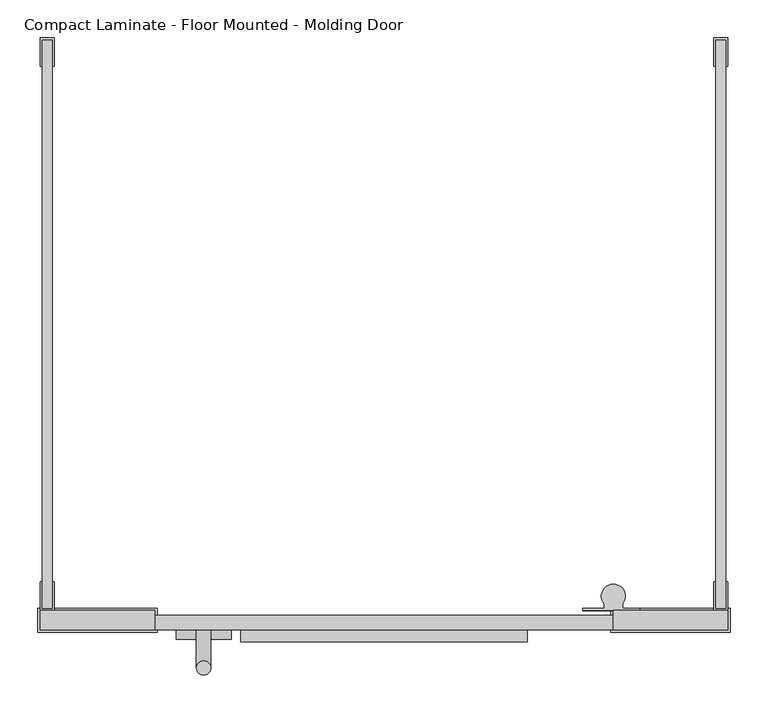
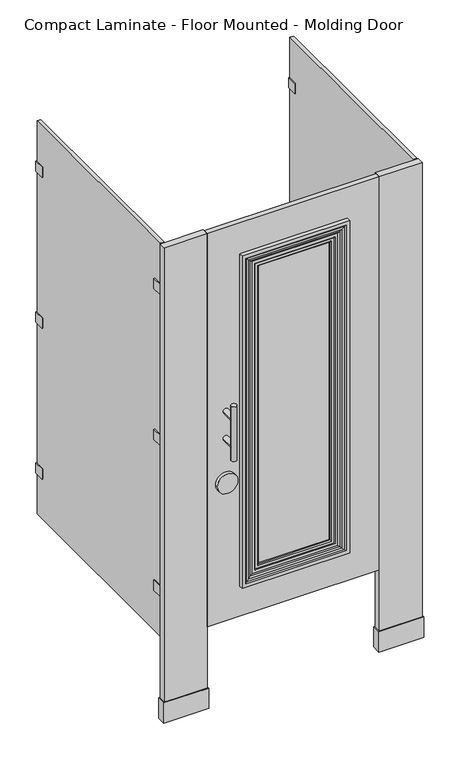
"""IFC4 building model written with IfcOpenShell, lengths in millimetres: proxy geometry, Toilet-Partition_Ironwood-Mfg_Compact-Laminate : Compact Laminate - Floor Mounted - Molding Door."""

import ifcopenshell
import ifcopenshell.guid

model = None  # the IFC model being written
_history = None  # IfcOwnerHistory: only IFC2X3 demands one
_inside = {}  # id of a spatial element -> (the spatial element, [elements in it])
_under = {}  # id of a project, library or spatial element -> (it, [spatial elements below it])
_declared = {}  # id of a project -> (the project, [libraries it declares])
_typed = {}  # id of a type object -> (the type object, [elements of that type])
_made_of = {}  # id of a material, layer set ... -> (it, [elements and type objects made of it])


def new_model(schema):
    """Start an empty IFC model of exactly this schema.

    Asked for "IFC4X3", IfcOpenShell would pick the latest addendum, in which some entities
    have other attributes; the version numbers below select the first issue.
    IFC2X3 requires an IfcOwnerHistory on every rooted entity: one is made here for all.
    """
    global model, _history
    if schema == "IFC4X3":
        model = ifcopenshell.file(schema_version=(4, 3, 0, 0))
    else:
        model = ifcopenshell.file(schema=schema)
    _inside.clear()
    _under.clear()
    _declared.clear()
    _typed.clear()
    _made_of.clear()
    _history = None
    if model.schema == "IFC2X3":
        org = make("IfcOrganization", Name="unknown")
        user = make(
            "IfcPersonAndOrganization",
            ThePerson=make("IfcPerson", FamilyName="unknown"),
            TheOrganization=org,
        )
        app = make(
            "IfcApplication",
            ApplicationDeveloper=org,
            Version="unknown",
            ApplicationFullName="unknown",
            ApplicationIdentifier="unknown",
        )
        _history = make(
            "IfcOwnerHistory",
            OwningUser=user,
            OwningApplication=app,
            ChangeAction="ADDED",
            CreationDate=0,
        )
    return model


def make(cls, **values):
    """One entity of the class cls with the attributes given. An attribute that is None is left unset."""
    return model.create_entity(
        cls, **{name: value for name, value in values.items() if value is not None}
    )


def rooted(cls, **values):
    """An entity with a GlobalId (a new one), such as an element, a storey or a relation."""
    return make(cls, GlobalId=ifcopenshell.guid.new(), OwnerHistory=_history, **values)


def si_unit(unit_type, name, prefix=None):
    """IfcSIUnit, for example si_unit("LENGTHUNIT", "METRE", prefix="MILLI")."""
    return make("IfcSIUnit", UnitType=unit_type, Prefix=prefix, Name=name)


def assignment(units):
    """IfcUnitAssignment: the units of a project."""
    return None if units is None else make("IfcUnitAssignment", Units=units)


def point(xyz):
    """IfcCartesianPoint."""
    return None if xyz is None else make("IfcCartesianPoint", Coordinates=xyz)


def direction(xyz):
    """IfcDirection."""
    return None if xyz is None else make("IfcDirection", DirectionRatios=xyz)


def frame(location, z_axis=None, x_axis=None):
    """IfcAxis2Placement3D, a coordinate frame: its origin and axes. An axis left out is left unset."""
    return make(
        "IfcAxis2Placement3D",
        Location=point(location),
        Axis=direction(z_axis),
        RefDirection=direction(x_axis),
    )


def frame_2d(location, x_axis=None):
    """IfcAxis2Placement2D, a coordinate frame in the plane: its origin and x axis."""
    return make(
        "IfcAxis2Placement2D", Location=point(location), RefDirection=direction(x_axis)
    )


def origin():
    """The frame at (0, 0, 0) with its axes left unset."""
    return frame((0.0, 0.0, 0.0))


def origin_with_axes():
    """The frame at (0, 0, 0) with the z axis (0, 0, 1) and the x axis (1, 0, 0) written out."""
    return frame((0.0, 0.0, 0.0), z_axis=(0.0, 0.0, 1.0), x_axis=(1.0, 0.0, 0.0))


def place(relative_to, where):
    """IfcLocalPlacement: puts the frame where relative to a parent placement (None: the world)."""
    return make(
        "IfcLocalPlacement", PlacementRelTo=relative_to, RelativePlacement=where
    )


def context(
    kind, dimensions, precision=None, world=None, true_north=None, identifier=None
):
    """IfcGeometricRepresentationContext, for example the 3D "Model" context."""
    return make(
        "IfcGeometricRepresentationContext",
        ContextIdentifier=identifier,
        ContextType=kind,
        CoordinateSpaceDimension=dimensions,
        Precision=precision,
        WorldCoordinateSystem=world,
        TrueNorth=true_north,
    )


def project(units=None, contexts=None):
    """IfcProject with its units and contexts."""
    return rooted(
        "IfcProject",
        Name="project",
        RepresentationContexts=contexts,
        UnitsInContext=assignment(units),
    )


def spatial(cls, under=None, at=None, **own):
    """A site, building, storey or space (cls), placed at a placement, below another one or the project."""
    s = rooted(cls, ObjectPlacement=at, **own)
    if under is not None:
        _under.setdefault(under.id(), (under, []))[1].append(s)
    return s


def polyline(points):
    """IfcPolyline through the points."""
    return make("IfcPolyline", Points=[point(p) for p in points])


def circle_curve(where, radius):
    """IfcCircle in the frame where."""
    return make("IfcCircle", Position=where, Radius=radius)


def ellipse_curve(where, semi_axis1, semi_axis2):
    """IfcEllipse in the frame where."""
    return make(
        "IfcEllipse", Position=where, SemiAxis1=semi_axis1, SemiAxis2=semi_axis2
    )


def trimmed(basis, trim1, trim2, sense, master):
    """IfcTrimmedCurve: the piece of a basis curve between two trims."""
    return make(
        "IfcTrimmedCurve",
        BasisCurve=basis,
        Trim1=trim1,
        Trim2=trim2,
        SenseAgreement=sense,
        MasterRepresentation=master,
    )


def segment(curve, same_sense, transition):
    """IfcCompositeCurveSegment."""
    return make(
        "IfcCompositeCurveSegment",
        Transition=transition,
        SameSense=same_sense,
        ParentCurve=curve,
    )


def composite_curve(segments, self_intersect=None):
    """IfcCompositeCurve: segments joined end to end."""
    return make("IfcCompositeCurve", Segments=segments, SelfIntersect=self_intersect)


def outline(outer, holes=None, kind="AREA"):
    """IfcArbitraryClosedProfileDef: a profile drawn as a closed curve; with holes, ...WithVoids."""
    if holes is None:
        return make("IfcArbitraryClosedProfileDef", ProfileType=kind, OuterCurve=outer)
    return make(
        "IfcArbitraryProfileDefWithVoids",
        ProfileType=kind,
        OuterCurve=outer,
        InnerCurves=holes,
    )


def extrude(swept, where, along, depth):
    """IfcExtrudedAreaSolid: the profile swept, set in the frame where, extruded along a direction by depth."""
    return make(
        "IfcExtrudedAreaSolid",
        SweptArea=swept,
        Position=where,
        ExtrudedDirection=direction(along),
        Depth=depth,
    )


def shape(context_of_items, identifier, shape_type, items):
    """IfcShapeRepresentation: the items that make up one representation, for example the "Body"."""
    return make(
        "IfcShapeRepresentation",
        ContextOfItems=context_of_items,
        RepresentationIdentifier=identifier,
        RepresentationType=shape_type,
        Items=items,
    )


def source(mapping_origin, context_of_items, identifier, shape_type, items):
    """IfcRepresentationMap: a shape defined once, which mapped items show again and again."""
    return make(
        "IfcRepresentationMap",
        MappingOrigin=mapping_origin,
        MappedRepresentation=shape(context_of_items, identifier, shape_type, items),
    )


def transform(
    local_origin,
    x_axis=None,
    y_axis=None,
    z_axis=None,
    scale=None,
    scale2=None,
    scale3=None,
    uniform=True,
):
    """IfcCartesianTransformationOperator3D, or its non-uniform kind. x_axis, y_axis, z_axis: its Axis1, 2, 3."""
    if uniform:
        return make(
            "IfcCartesianTransformationOperator3D",
            Axis1=direction(x_axis),
            Axis2=direction(y_axis),
            LocalOrigin=point(local_origin),
            Scale=scale,
            Axis3=direction(z_axis),
        )
    return make(
        "IfcCartesianTransformationOperator3DnonUniform",
        Axis1=direction(x_axis),
        Axis2=direction(y_axis),
        LocalOrigin=point(local_origin),
        Scale=scale,
        Axis3=direction(z_axis),
        Scale2=scale2,
        Scale3=scale3,
    )


def mapped(mapping_source, mapping_target):
    """IfcMappedItem: shows the shape of a source again, moved by a transform."""
    return make(
        "IfcMappedItem", MappingSource=mapping_source, MappingTarget=mapping_target
    )


def made_of(thing, what):
    """Note that an element or type object is made of a material, layer set ...; save() writes the relation."""
    if what is not None:
        _made_of.setdefault(what.id(), (what, []))[1].append(thing)
    return thing


def element(
    cls,
    number,
    at=None,
    inside=None,
    cuts=None,
    type_object=None,
    material=None,
    context=None,
    identifier="Body",
    shape_type=None,
    held_by="IfcProductDefinitionShape",
    body=None,
    shapes=None,
    **own,
):
    """One element of the class cls, such as IfcWall. Its Tag is "e" and its number.

    at: its placement. inside: the storey or other place that contains it. cuts: it is an
    opening in that element (IfcRelVoidsElement). A single representation is given by context,
    identifier, shape_type and body (its items); several are given by shapes. held_by: the class
    of the entity that holds the representations. save() writes the other relations.
    """
    e = rooted(cls, Tag="e%d" % number, ObjectPlacement=at, **own)
    if body is not None:
        shapes = [shape(context, identifier, shape_type, body)]
    if shapes is not None:
        e.Representation = make(held_by, Representations=shapes)
    if inside is not None:
        _inside.setdefault(inside.id(), (inside, []))[1].append(e)
    if cuts is not None:
        rooted(
            "IfcRelVoidsElement", RelatingBuildingElement=cuts, RelatedOpeningElement=e
        )
    if type_object is not None:
        _typed.setdefault(type_object.id(), (type_object, []))[1].append(e)
    return made_of(e, material)


def aggregate(whole, parts):
    """IfcRelAggregates: a whole, such as a stair, and the parts it consists of."""
    return rooted("IfcRelAggregates", RelatingObject=whole, RelatedObjects=parts)


def save(model, path):
    """Write the relations noted so far, then the file.

    IfcRelAggregates (storeys below a building ...), IfcRelContainedInSpatialStructure (elements
    in a storey), IfcRelDefinesByType, IfcRelAssociatesMaterial and IfcRelDeclares: one each for
    every whole, place, type object, material and project.
    """
    for whole, parts in _under.values():
        aggregate(whole, parts)
    for where, things in _inside.values():
        rooted(
            "IfcRelContainedInSpatialStructure",
            RelatedElements=things,
            RelatingStructure=where,
        )
    for kind, things in _typed.values():
        rooted("IfcRelDefinesByType", RelatedObjects=things, RelatingType=kind)
    for what, things in _made_of.values():
        rooted("IfcRelAssociatesMaterial", RelatedObjects=things, RelatingMaterial=what)
    for by, libraries in _declared.values():
        rooted("IfcRelDeclares", RelatingContext=by, RelatedDefinitions=libraries)
    model.write(path)


def plane_surface(at):
    """IfcPlane: the flat surface through the origin of the frame at, square to its z axis."""
    return make("IfcPlane", Position=at)


def cylinder_surface(at, radius):
    """IfcCylindricalSurface: all points at the distance radius from the z axis of the frame at."""
    return make("IfcCylindricalSurface", Position=at, Radius=radius)


def revolved_surface(curve, axis_point, axis_direction):
    """IfcSurfaceOfRevolution: the curve turned about the line through axis_point along axis_direction."""
    return make(
        "IfcSurfaceOfRevolution",
        SweptCurve=make("IfcArbitraryOpenProfileDef", ProfileType="CURVE", Curve=curve),
        AxisPosition=make("IfcAxis1Placement", Location=point(axis_point), Axis=direction(axis_direction)),
    )


def advanced_brep(points, edges, surfaces, faces):
    """IfcAdvancedBrep: a solid bounded by faces that lie on surfaces and meet in shared edges.

    An edge is (start, end): straight between two places in points (the first is 0);
    or (start, end, curve); or (start, end, curve, False) where it runs against its curve.
    A face is (place in surfaces, loops), or (place, loops, False) where it looks against
    its surface's normal. A loop lists edges by number (the first is 1), with a minus sign
    where the edge is run from its end to its start. The first loop is the outer one.
    """
    corners = [point(p) for p in points]
    vertices = [make("IfcVertexPoint", VertexGeometry=c) for c in corners]
    made = []
    for start, end, *more in edges:
        made.append(
            make(
                "IfcEdgeCurve",
                EdgeStart=vertices[start],
                EdgeEnd=vertices[end],
                EdgeGeometry=more[0] if more else make("IfcPolyline", Points=[corners[start], corners[end]]),
                SameSense=more[1] if len(more) > 1 else True,
            )
        )
    hull = []
    for where, loops, *sense in faces:
        bounds = []
        for j, loop in enumerate(loops):
            ring = [make("IfcOrientedEdge", EdgeElement=made[abs(k) - 1], Orientation=k > 0) for k in loop]
            bounds.append(
                make(
                    "IfcFaceOuterBound" if j == 0 else "IfcFaceBound",
                    Bound=make("IfcEdgeLoop", EdgeList=ring),
                    Orientation=True,
                )
            )
        hull.append(make("IfcAdvancedFace", Bounds=bounds, FaceSurface=surfaces[where], SameSense=sense[0] if sense else True))
    return make("IfcAdvancedBrep", Outer=make("IfcClosedShell", CfsFaces=hull))


def compact_laminate_floor_mounted_molding_door_0e6e7056(model_context):
    return source(origin(), model_context, "Body", "SolidModel", [
        extrude(outline(polyline([(701.675, -758.825), (701.675, -790.575), (542.925, -790.575), (542.925, -758.825), (701.675, -758.825)])), origin_with_axes(), (0.0, 0.0, 1.0), 76.2),
        extrude(outline(polyline([(698.5, -762.0), (698.5, -787.4), (546.1, -787.4), (546.1, -762.0), (698.5, -762.0)])), origin_with_axes(), (0.0, 0.0, 1.0), 1778.0),
        extrude(outline(polyline([(-219.075, -758.825), (-60.325, -758.825), (-60.325, -790.575), (-219.075, -790.575), (-219.075, -758.825)])), origin_with_axes(), (0.0, 0.0, 1.0), 76.2),
        extrude(outline(polyline([(-215.9, -762.0), (-63.5, -762.0), (-63.5, -787.4), (-215.9, -787.4), (-215.9, -762.0)])), origin_with_axes(), (0.0, 0.0, 1.0), 1778.0),
        extrude(outline(polyline([(546.1, -787.4), (-63.5, -787.4), (-63.5, -768.35), (546.1, -768.35), (546.1, -787.4)])), frame((0.0, 0.0, 304.8), z_axis=(0.0, 0.0, 1.0), x_axis=(1.0, 0.0, 0.0)), (0.0, 0.0, 1.0), 1473.2),
        extrude(outline(composite_curve([segment(trimmed(circle_curve(frame_2d((827.0875, 1.5875)), 36.5125), [point((827.0875, -34.925))], [point((827.0875, 38.1))], False, "CARTESIAN"), True, "CONTINUOUS"), segment(trimmed(circle_curve(frame_2d((827.0875, 1.5875)), 36.5125), [point((827.0875, 38.1))], [point((827.0875, -34.925))], False, "CARTESIAN"), True, "CONTINUOUS")], self_intersect=False)), frame((0.0, -800.1, 0.0), z_axis=(0.0, 1.0, 0.0), x_axis=(0.0, 0.0, 1.0)), (0.0, 0.0, 1.0), 12.7),
        advanced_brep(
        [(-7.9375, -787.4, 1092.2), (11.1125, -787.4, 1092.2), (-7.9375, -787.4, 990.6), (11.1125, -787.4, 990.6), (11.1125, -838.2, 1092.2), (-7.9375, -838.2, 1092.2), (11.1125, -838.2, 990.6), (-7.9375, -838.2, 990.6), (-7.9375, -838.2, 1143.0), (11.1125, -838.2, 1143.0), (-7.9375, -838.2, 939.8), (11.1125, -838.2, 939.8)],
        [
            (0, 1, circle_curve(frame((1.5875, -787.4, 1092.2), z_axis=(0.0, 1.0, 0.0), x_axis=(1.0, 0.0, 0.0)), 9.525)),
            (1, 0, circle_curve(frame((1.5875, -787.4, 1092.2), z_axis=(0.0, 1.0, 0.0), x_axis=(1.0, 0.0, 0.0)), 9.525)),
            (2, 3, circle_curve(frame((1.5875, -787.4, 990.6), z_axis=(0.0, 1.0, 0.0), x_axis=(1.0, 0.0, 0.0)), 9.525)),
            (3, 2, circle_curve(frame((1.5875, -787.4, 990.6), z_axis=(0.0, 1.0, 0.0), x_axis=(1.0, 0.0, 0.0)), 9.525)),
            (1, 4),
            (4, 5, ellipse_curve(frame((1.5875, -838.2, 1092.2), z_axis=(0.0, 0.7071067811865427, 0.7071067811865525), x_axis=(0.0, -0.7071067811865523, 0.7071067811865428)), 13.4703842, 9.525)),
            (5, 0),
            (5, 4, ellipse_curve(frame((1.5875, -838.2, 1092.2), z_axis=(0.0, 0.7071067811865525, -0.7071067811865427), x_axis=(0.0, -0.7071067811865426, -0.7071067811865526)), 13.4703842, 9.525)),
            (3, 6),
            (6, 7, ellipse_curve(frame((1.5875, -838.2, 990.6), z_axis=(0.0, 0.7071067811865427, 0.7071067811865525), x_axis=(0.0, -0.7071067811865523, 0.7071067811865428)), 13.4703842, 9.525)),
            (7, 2),
            (7, 6, ellipse_curve(frame((1.5875, -838.2, 990.6), z_axis=(0.0, 0.7071067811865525, -0.7071067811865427), x_axis=(0.0, -0.7071067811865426, -0.7071067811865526)), 13.4703842, 9.525)),
            (8, 9, circle_curve(frame((1.5875, -838.2, 1143.0), z_axis=(0.0, 0.0, 1.0), x_axis=(1.0, 0.0, 0.0)), 9.525)),
            (9, 8, circle_curve(frame((1.5875, -838.2, 1143.0), z_axis=(0.0, 0.0, 1.0), x_axis=(1.0, 0.0, 0.0)), 9.525)),
            (10, 11, circle_curve(frame((1.5875, -838.2, 939.8), z_axis=(0.0, 0.0, -1.0), x_axis=(1.0, 0.0, 0.0)), 9.525)),
            (11, 10, circle_curve(frame((1.5875, -838.2, 939.8), z_axis=(0.0, 0.0, -1.0), x_axis=(1.0, 0.0, 0.0)), 9.525)),
            (8, 5),
            (5, 7),
            (7, 10),
            (11, 6),
            (6, 4),
            (4, 9),
        ],
        [
            plane_surface(frame((11.1125, -787.4, 1092.2), z_axis=(0.0, 1.0, 0.0), x_axis=(0.0, 0.0, -1.0))),
            cylinder_surface(frame((1.5875, -787.4, 1092.2), z_axis=(0.0, -1.0, 0.0), x_axis=(1.0, 0.0, 0.0)), 9.525),
            cylinder_surface(frame((1.5875, -787.4, 990.6), z_axis=(0.0, -1.0, 0.0), x_axis=(1.0, 0.0, 0.0)), 9.525),
            plane_surface(frame((11.1125, -838.2, 1143.0), z_axis=(0.0, 0.0, 1.0), x_axis=(0.0, 1.0, 0.0))),
            plane_surface(frame((11.1125, -838.2, 939.8), z_axis=(0.0, 0.0, -1.0), x_axis=(0.0, -1.0, 0.0))),
            cylinder_surface(frame((1.5875, -838.2, 939.8), z_axis=(0.0, 0.0, 1.0), x_axis=(1.0, 0.0, 0.0)), 9.525),
        ],
        [
            (0, [[1, 2]]),
            (0, [[3, 4]]),
            (1, [[-2, 5, 6, 7]]),
            (1, [[-1, -7, 8, -5]]),
            (2, [[-4, 9, 10, 11]]),
            (2, [[-3, -11, 12, -9]]),
            (3, [[13, 14]]),
            (4, [[15, 16]]),
            (5, [[-13, 17, 18, 19, -16, 20, 21, 22]]),
            (5, [[-14, -22, -8, -17]]),
            (5, [[-15, -19, -10, -20]]),
            (5, [[-18, -6, -21, -12]]),
        ],
    ),
        advanced_brep(
        [(414.5195881, -788.6573117, 1646.4195881), (415.7768998, -787.4, 1647.6768998), (415.7768998, -787.4, 435.1231002), (414.5195881, -788.6573117, 436.3804119), (382.8493103, -787.3167663, 1614.7493103), (384.1898558, -788.6573117, 1616.0898558), (384.1898558, -788.6573117, 466.7101442), (382.8493103, -787.3167663, 468.0506897), (368.3, -792.3903203, 1600.2), (368.3, -787.3167663, 1600.2), (368.3, -787.3167663, 482.6), (368.3, -792.3903203, 482.6), (371.8761431, -795.8339988, 1603.7761431), (371.8761431, -795.8339988, 479.0238569), (383.7857899, -797.3276278, 1615.6857899), (381.5195942, -795.8339988, 1613.4195942), (381.5195942, -795.8339988, 469.3804058), (383.7857899, -797.3276278, 467.1142101), (399.1420677, -798.1943603, 1631.0420677), (393.8806616, -797.3276278, 1625.7806616), (393.8806616, -797.3276278, 457.0193384), (399.1420677, -798.1943603, 451.7579323), (406.241729, -800.7784257, 1638.141729), (406.241729, -800.7784257, 444.658271), (415.3065117, -800.469399, 1647.2065117), (415.3065117, -800.469399, 435.5934883), (419.1, -803.275, 1651.0), (419.1, -803.275, 431.8), (431.8, -787.4, 1663.7), (431.8, -803.275, 1663.7), (431.8, -803.275, 419.1), (431.8, -787.4, 419.1), (66.8231002, -787.4, 435.1231002), (68.0804119, -788.6573117, 436.3804119), (98.4101442, -788.6573117, 466.7101442), (99.7506897, -787.3167663, 468.0506897), (114.3, -787.3167663, 482.6), (114.3, -792.3903203, 482.6), (110.7238569, -795.8339988, 479.0238569), (101.0804058, -795.8339988, 469.3804058), (98.8142101, -797.3276278, 467.1142101), (88.7193384, -797.3276278, 457.0193384), (83.4579323, -798.1943603, 451.7579323), (76.358271, -800.7784257, 444.658271), (67.2934883, -800.469399, 435.5934883), (63.5, -803.275, 431.8), (50.8, -803.275, 419.1), (50.8, -787.4, 419.1), (66.8231002, -787.4, 1647.6768998), (68.0804119, -788.6573117, 1646.4195881), (98.4101442, -788.6573117, 1616.0898558), (99.7506897, -787.3167663, 1614.7493103), (114.3, -787.3167663, 1600.2), (114.3, -792.3903203, 1600.2), (110.7238569, -795.8339988, 1603.7761431), (101.0804058, -795.8339988, 1613.4195942), (98.8142101, -797.3276278, 1615.6857899), (88.7193384, -797.3276278, 1625.7806616), (83.4579323, -798.1943603, 1631.0420677), (76.358271, -800.7784257, 1638.141729), (67.2934883, -800.469399, 1647.2065117), (63.5, -803.275, 1651.0), (50.8, -803.275, 1663.7), (50.8, -787.4, 1663.7)],
        [
            (0, 1),
            (1, 2),
            (2, 3),
            (3, 0),
            (4, 5),
            (5, 6),
            (6, 7),
            (7, 4),
            (8, 9),
            (9, 10),
            (10, 11),
            (11, 8),
            (12, 8, ellipse_curve(frame((371.8761431, -792.2553079, 1603.7761431), z_axis=(0.7071067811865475, 0.0, -0.7071067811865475), x_axis=(0.7071067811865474, 0.0, 0.7071067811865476)), 5.0610331, 3.5786908)),
            (11, 13, ellipse_curve(frame((371.8761431, -792.2553079, 479.0238569), z_axis=(0.7071067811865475, 0.0, 0.7071067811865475), x_axis=(-0.7071067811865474, 0.0, 0.7071067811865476)), 5.0610331, 3.5786908)),
            (13, 12),
            (14, 15, ellipse_curve(frame((383.7857899, -794.8616303, 1615.6857899), z_axis=(0.7071067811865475, 0.0, -0.7071067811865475), x_axis=(0.7071067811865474, 0.0, 0.7071067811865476)), 3.487447, 2.4659974)),
            (15, 16),
            (16, 17, ellipse_curve(frame((383.7857899, -794.8616303, 467.1142101), z_axis=(0.7071067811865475, 0.0, 0.7071067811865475), x_axis=(-0.7071067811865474, 0.0, 0.7071067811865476)), 3.487447, 2.4659974)),
            (17, 14),
            (18, 19, ellipse_curve(frame((394.2058089, -811.7566197, 1626.1058089), z_axis=(-0.7071067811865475, 0.0, 0.7071067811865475), x_axis=(-0.7071067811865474, 0.0, -0.7071067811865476)), 20.4108564, 14.432655)),
            (19, 20),
            (20, 21, ellipse_curve(frame((394.2058089, -811.7566197, 456.6941911), z_axis=(-0.7071067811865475, 0.0, -0.7071067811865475), x_axis=(0.7071067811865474, 0.0, -0.7071067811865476)), 20.4108564, 14.432655)),
            (21, 18),
            (22, 18),
            (21, 23),
            (23, 22),
            (24, 22, ellipse_curve(frame((410.3907719, -789.379024, 1642.2907719), z_axis=(0.7071067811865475, 0.0, -0.7071067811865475), x_axis=(0.7071067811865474, 0.0, 0.7071067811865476)), 17.1558104, 12.1309899)),
            (23, 25, ellipse_curve(frame((410.3907719, -789.379024, 440.5092281), z_axis=(0.7071067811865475, 0.0, 0.7071067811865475), x_axis=(-0.7071067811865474, 0.0, 0.7071067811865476)), 17.1558104, 12.1309899)),
            (25, 24),
            (26, 24, ellipse_curve(frame((419.1, -799.307588, 1651.0), z_axis=(0.7071067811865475, 0.0, -0.7071067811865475), x_axis=(0.7071067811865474, 0.0, 0.7071067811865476)), 5.6107679, 3.967412)),
            (25, 27, ellipse_curve(frame((419.1, -799.307588, 431.8), z_axis=(0.7071067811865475, 0.0, 0.7071067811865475), x_axis=(-0.7071067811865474, 0.0, 0.7071067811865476)), 5.6107679, 3.967412)),
            (27, 26),
            (28, 29),
            (29, 30),
            (30, 31),
            (31, 28),
            (2, 32),
            (32, 33),
            (33, 3),
            (6, 34),
            (34, 35),
            (35, 7),
            (10, 36),
            (36, 37),
            (37, 11),
            (37, 38, ellipse_curve(frame((110.7238569, -792.2553079, 479.0238569), z_axis=(0.7071067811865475, 0.0, -0.7071067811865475), x_axis=(0.7071067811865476, 0.0, 0.7071067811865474)), 5.0610331, 3.5786908)),
            (38, 13),
            (16, 39),
            (39, 40, ellipse_curve(frame((98.8142101, -794.8616303, 467.1142101), z_axis=(0.7071067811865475, 0.0, -0.7071067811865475), x_axis=(0.7071067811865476, 0.0, 0.7071067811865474)), 3.487447, 2.4659974)),
            (40, 17),
            (20, 41),
            (41, 42, ellipse_curve(frame((88.3941911, -811.7566197, 456.6941911), z_axis=(-0.7071067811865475, 0.0, 0.7071067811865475), x_axis=(-0.7071067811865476, 0.0, -0.7071067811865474)), 20.4108564, 14.432655)),
            (42, 21),
            (42, 43),
            (43, 23),
            (43, 44, ellipse_curve(frame((72.2092281, -789.379024, 440.5092281), z_axis=(0.7071067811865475, 0.0, -0.7071067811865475), x_axis=(0.7071067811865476, 0.0, 0.7071067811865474)), 17.1558104, 12.1309899)),
            (44, 25),
            (44, 45, ellipse_curve(frame((63.5, -799.307588, 431.8), z_axis=(0.7071067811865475, 0.0, -0.7071067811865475), x_axis=(0.7071067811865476, 0.0, 0.7071067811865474)), 5.6107679, 3.967412)),
            (45, 27),
            (30, 46),
            (46, 47),
            (47, 31),
            (32, 48),
            (48, 49),
            (49, 33),
            (34, 50),
            (50, 51),
            (51, 35),
            (36, 52),
            (52, 53),
            (53, 37),
            (53, 54, ellipse_curve(frame((110.7238569, -792.2553079, 1603.7761431), z_axis=(-0.7071067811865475, 0.0, -0.7071067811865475), x_axis=(0.7071067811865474, 0.0, -0.7071067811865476)), 5.0610331, 3.5786908)),
            (54, 38),
            (39, 55),
            (55, 56, ellipse_curve(frame((98.8142101, -794.8616303, 1615.6857899), z_axis=(-0.7071067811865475, 0.0, -0.7071067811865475), x_axis=(0.7071067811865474, 0.0, -0.7071067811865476)), 3.487447, 2.4659974)),
            (56, 40),
            (41, 57),
            (57, 58, ellipse_curve(frame((88.3941911, -811.7566197, 1626.1058089), z_axis=(0.7071067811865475, 0.0, 0.7071067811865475), x_axis=(-0.7071067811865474, 0.0, 0.7071067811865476)), 20.4108564, 14.432655)),
            (58, 42),
            (58, 59),
            (59, 43),
            (59, 60, ellipse_curve(frame((72.2092281, -789.379024, 1642.2907719), z_axis=(-0.7071067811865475, 0.0, -0.7071067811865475), x_axis=(0.7071067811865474, 0.0, -0.7071067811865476)), 17.1558104, 12.1309899)),
            (60, 44),
            (60, 61, ellipse_curve(frame((63.5, -799.307588, 1651.0), z_axis=(-0.7071067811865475, 0.0, -0.7071067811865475), x_axis=(0.7071067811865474, 0.0, -0.7071067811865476)), 5.6107679, 3.967412)),
            (61, 45),
            (46, 62),
            (62, 63),
            (63, 47),
            (63, 28),
            (1, 48),
            (0, 49),
            (5, 50),
            (4, 51),
            (9, 52),
            (8, 53),
            (12, 54),
            (15, 55),
            (14, 56),
            (19, 57),
            (18, 58),
            (22, 59),
            (24, 60),
            (26, 61),
            (29, 62),
        ],
        [
            plane_surface(frame((415.7768998, -787.4, 1647.6768998), z_axis=(-0.7071067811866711, 0.7071067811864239, 0.0), x_axis=(0.0, 0.0, -1.0))),
            plane_surface(frame((384.1898558, -788.6573117, 1616.0898558), z_axis=(0.7071067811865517, 0.7071067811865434, 0.0), x_axis=(0.0, 0.0, -1.0))),
            plane_surface(frame((368.3, -787.3167663, 1600.2), z_axis=(-1.0, 0.0, 0.0), x_axis=(0.0, 0.0, -1.0))),
            cylinder_surface(frame((371.8761431, -792.2553079, 1663.7), z_axis=(0.0, 0.0, 1.0), x_axis=(1.0, 0.0, 0.0)), 3.5786908),
            cylinder_surface(frame((383.7857899, -794.8616303, 1663.7), z_axis=(0.0, 0.0, 1.0), x_axis=(1.0, 0.0, 0.0)), 2.4659974),
            revolved_surface(polyline([(408.63846390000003, -811.7566197, 442.2615361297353), (408.63846390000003, -811.7566197, 1640.5384638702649)]), (394.2058089, -811.7566197, 1663.7), (0.0, 0.0, -1.0)),
            plane_surface(frame((399.1420677, -798.1943603, 1631.0420677), z_axis=(-0.34202014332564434, -0.9396926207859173, 0.0), x_axis=(0.0, 0.0, -1.0))),
            cylinder_surface(frame((410.3907719, -789.379024, 1663.7), z_axis=(0.0, 0.0, 1.0), x_axis=(1.0, 0.0, 0.0)), 12.1309899),
            cylinder_surface(frame((419.1, -799.307588, 1663.7), z_axis=(0.0, 0.0, 1.0), x_axis=(1.0, 0.0, 0.0)), 3.967412),
            plane_surface(frame((431.8, -803.275, 1663.7), z_axis=(1.0, 0.0, 0.0), x_axis=(0.0, 0.0, -1.0))),
            plane_surface(frame((415.7768998, -787.4, 435.1231002), z_axis=(0.0, 0.7071067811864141, 0.7071067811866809), x_axis=(-1.0, 0.0, 0.0))),
            plane_surface(frame((384.1898558, -788.6573117, 466.7101442), z_axis=(0.0, 0.7071067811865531, -0.7071067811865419), x_axis=(-1.0, 0.0, 0.0))),
            plane_surface(frame((368.3, -787.3167663, 482.6), z_axis=(0.0, 0.0, 1.0), x_axis=(-1.0, 0.0, 0.0))),
            cylinder_surface(frame((431.8, -792.2553079, 479.0238569), z_axis=(1.0, 0.0, 0.0), x_axis=(0.0, 0.0, -1.0)), 3.5786908),
            cylinder_surface(frame((431.8, -794.8616303, 467.1142101), z_axis=(1.0, 0.0, 0.0), x_axis=(0.0, 0.0, -1.0)), 2.4659974),
            revolved_surface(polyline([(73.96153612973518, -811.7566197, 442.2615361), (408.63846387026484, -811.7566197, 442.2615361)]), (431.8, -811.7566197, 456.6941911), (-1.0, 0.0, 0.0)),
            plane_surface(frame((399.1420677, -798.1943603, 451.7579323), z_axis=(0.0, -0.9396926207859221, 0.34202014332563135), x_axis=(-1.0, 0.0, 0.0))),
            cylinder_surface(frame((431.8, -789.379024, 440.5092281), z_axis=(1.0, 0.0, 0.0), x_axis=(0.0, 0.0, -1.0)), 12.1309899),
            cylinder_surface(frame((431.8, -799.307588, 431.8), z_axis=(1.0, 0.0, 0.0), x_axis=(0.0, 0.0, -1.0)), 3.967412),
            plane_surface(frame((431.8, -803.275, 419.1), z_axis=(0.0, 0.0, -1.0), x_axis=(-1.0, 0.0, 0.0))),
            plane_surface(frame((66.8231002, -787.4, 435.1231002), z_axis=(0.7071067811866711, 0.7071067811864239, 0.0), x_axis=(0.0, 0.0, 1.0))),
            plane_surface(frame((98.4101442, -788.6573117, 466.7101442), z_axis=(-0.7071067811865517, 0.7071067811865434, 0.0), x_axis=(0.0, 0.0, 1.0))),
            plane_surface(frame((114.3, -787.3167663, 482.6), z_axis=(1.0, 0.0, 0.0), x_axis=(0.0, 0.0, 1.0))),
            cylinder_surface(frame((110.7238569, -792.2553079, 419.1), z_axis=(0.0, 0.0, -1.0), x_axis=(-1.0, 0.0, 0.0)), 3.5786908),
            cylinder_surface(frame((98.8142101, -794.8616303, 419.1), z_axis=(0.0, 0.0, -1.0), x_axis=(-1.0, 0.0, 0.0)), 2.4659974),
            revolved_surface(polyline([(73.9615361, -811.7566197, 1640.5384638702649), (73.9615361, -811.7566197, 442.2615361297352)]), (88.3941911, -811.7566197, 419.1), (0.0, 0.0, 1.0)),
            plane_surface(frame((83.4579323, -798.1943603, 451.7579323), z_axis=(0.34202014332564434, -0.9396926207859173, 0.0), x_axis=(0.0, 0.0, 1.0))),
            cylinder_surface(frame((72.2092281, -789.379024, 419.1), z_axis=(0.0, 0.0, -1.0), x_axis=(-1.0, 0.0, 0.0)), 12.1309899),
            cylinder_surface(frame((63.5, -799.307588, 419.1), z_axis=(0.0, 0.0, -1.0), x_axis=(-1.0, 0.0, 0.0)), 3.967412),
            plane_surface(frame((50.8, -803.275, 419.1), z_axis=(-1.0, 0.0, 0.0), x_axis=(0.0, 0.0, 1.0))),
            plane_surface(frame((50.8, -787.4, 1663.7), z_axis=(0.0, 1.0, 0.0), x_axis=(1.0, 0.0, 0.0))),
            plane_surface(frame((66.8231002, -787.4, 1647.6768998), z_axis=(0.0, 0.7071067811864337, -0.7071067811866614), x_axis=(1.0, 0.0, 0.0))),
            plane_surface(frame((68.0804119, -788.6573117, 1646.4195881), z_axis=(0.0, 1.0, 0.0), x_axis=(1.0, 0.0, 0.0))),
            plane_surface(frame((98.4101442, -788.6573117, 1616.0898558), z_axis=(0.0, 0.7071067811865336, 0.7071067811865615), x_axis=(1.0, 0.0, 0.0))),
            plane_surface(frame((99.7506897, -787.3167663, 1614.7493103), z_axis=(0.0, 1.0, 0.0), x_axis=(1.0, 0.0, 0.0))),
            plane_surface(frame((114.3, -787.3167663, 1600.2), z_axis=(0.0, 0.0, -1.0), x_axis=(1.0, 0.0, 0.0))),
            cylinder_surface(frame((50.8, -792.2553079, 1603.7761431), z_axis=(-1.0, 0.0, 0.0), x_axis=(0.0, 0.0, 1.0)), 3.5786908),
            plane_surface(frame((110.7238569, -795.8339988, 1603.7761431), z_axis=(0.0, -1.0, 0.0), x_axis=(1.0, 0.0, 0.0))),
            cylinder_surface(frame((50.8, -794.8616303, 1615.6857899), z_axis=(-1.0, 0.0, 0.0), x_axis=(0.0, 0.0, 1.0)), 2.4659974),
            plane_surface(frame((98.8142101, -797.3276278, 1615.6857899), z_axis=(0.0, -1.0, 0.0), x_axis=(1.0, 0.0, 0.0))),
            revolved_surface(polyline([(408.63846387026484, -811.7566197, 1640.5384639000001), (73.96153612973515, -811.7566197, 1640.5384639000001)]), (50.8, -811.7566197, 1626.1058089), (1.0, 0.0, 0.0)),
            plane_surface(frame((83.4579323, -798.1943603, 1631.0420677), z_axis=(0.0, -0.9396926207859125, -0.34202014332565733), x_axis=(1.0, 0.0, 0.0))),
            cylinder_surface(frame((50.8, -789.379024, 1642.2907719), z_axis=(-1.0, 0.0, 0.0), x_axis=(0.0, 0.0, 1.0)), 12.1309899),
            cylinder_surface(frame((50.8, -799.307588, 1651.0), z_axis=(-1.0, 0.0, 0.0), x_axis=(0.0, 0.0, 1.0)), 3.967412),
            plane_surface(frame((63.5, -803.275, 1651.0), z_axis=(0.0, -1.0, 0.0), x_axis=(1.0, 0.0, 0.0))),
            plane_surface(frame((50.8, -803.275, 1663.7), z_axis=(0.0, 0.0, 1.0), x_axis=(1.0, 0.0, 0.0))),
        ],
        [
            (0, [[1, 2, 3, 4]]),
            (1, [[5, 6, 7, 8]]),
            (2, [[9, 10, 11, 12]]),
            (3, [[13, -12, 14, 15]]),
            (4, [[16, 17, 18, 19]]),
            (5, [[20, 21, 22, 23]]),
            (6, [[24, -23, 25, 26]]),
            (7, [[27, -26, 28, 29]]),
            (8, [[30, -29, 31, 32]]),
            (9, [[33, 34, 35, 36]]),
            (10, [[-3, 37, 38, 39]]),
            (11, [[-7, 40, 41, 42]]),
            (12, [[-11, 43, 44, 45]]),
            (13, [[-14, -45, 46, 47]]),
            (14, [[-18, 48, 49, 50]]),
            (15, [[-22, 51, 52, 53]]),
            (16, [[-25, -53, 54, 55]]),
            (17, [[-28, -55, 56, 57]]),
            (18, [[-31, -57, 58, 59]]),
            (19, [[-35, 60, 61, 62]]),
            (20, [[-38, 63, 64, 65]]),
            (21, [[-41, 66, 67, 68]]),
            (22, [[-44, 69, 70, 71]]),
            (23, [[-46, -71, 72, 73]]),
            (24, [[-49, 74, 75, 76]]),
            (25, [[-52, 77, 78, 79]]),
            (26, [[-54, -79, 80, 81]]),
            (27, [[-56, -81, 82, 83]]),
            (28, [[-58, -83, 84, 85]]),
            (29, [[-61, 86, 87, 88]]),
            (30, [[-62, -88, 89, -36], [90, -63, -37, -2]]),
            (31, [[-64, -90, -1, 91]]),
            (32, [[-39, -65, -91, -4], [92, -66, -40, -6]]),
            (33, [[-67, -92, -5, 93]]),
            (34, [[-42, -68, -93, -8], [94, -69, -43, -10]]),
            (35, [[-70, -94, -9, 95]]),
            (36, [[-72, -95, -13, 96]]),
            (37, [[97, -74, -48, -17], [-47, -73, -96, -15]]),
            (38, [[-75, -97, -16, 98]]),
            (39, [[99, -77, -51, -21], [-50, -76, -98, -19]]),
            (40, [[-78, -99, -20, 100]]),
            (41, [[-80, -100, -24, 101]]),
            (42, [[-82, -101, -27, 102]]),
            (43, [[-84, -102, -30, 103]]),
            (44, [[104, -86, -60, -34], [-59, -85, -103, -32]]),
            (45, [[-87, -104, -33, -89]]),
        ],
    ),
        extrude(outline(composite_curve([segment(polyline([(581.3737081, -762.0), (505.1737081, -762.0), (505.1737081, -758.825), (533.7487081, -758.825), (533.7487081, -752.9581331)]), True, "CONTINUOUS"), segment(trimmed(circle_curve(frame_2d((546.1, -742.8902139)), 15.9347861), [point((533.7487081, -752.9581331))], [point((558.4512919, -752.9581331))], False, "CARTESIAN"), True, "CONTINUOUS"), segment(polyline([(558.4512919, -752.9581331), (558.4512919, -758.825), (581.3737081, -758.825), (581.3737081, -762.0)]), True, "CONTINUOUS")], self_intersect=False)), frame((0.0, 0.0, 1574.8), z_axis=(0.0, 0.0, 1.0), x_axis=(1.0, 0.0, 0.0)), (0.0, 0.0, 1.0), 63.5),
        extrude(outline(composite_curve([segment(polyline([(581.3737081, -762.0), (505.1737081, -762.0), (505.1737081, -758.825), (533.7487081, -758.825), (533.7487081, -752.9581331)]), True, "CONTINUOUS"), segment(trimmed(circle_curve(frame_2d((546.1, -742.8902139)), 15.9347861), [point((533.7487081, -752.9581331))], [point((558.4512919, -752.9581331))], False, "CARTESIAN"), True, "CONTINUOUS"), segment(polyline([(558.4512919, -752.9581331), (558.4512919, -758.825), (581.3737081, -758.825), (581.3737081, -762.0)]), True, "CONTINUOUS")], self_intersect=False)), frame((0.0, 0.0, 1009.6500001), z_axis=(0.0, 0.0, 1.0), x_axis=(1.0, 0.0, 0.0)), (0.0, 0.0, 1.0), 63.5),
        extrude(outline(composite_curve([segment(polyline([(581.3737081, -762.0), (505.1737081, -762.0), (505.1737081, -758.825), (533.7487081, -758.825), (533.7487081, -752.9581331)]), True, "CONTINUOUS"), segment(trimmed(circle_curve(frame_2d((546.1, -742.8902139)), 15.9347861), [point((533.7487081, -752.9581331))], [point((558.4512919, -752.9581331))], False, "CARTESIAN"), True, "CONTINUOUS"), segment(polyline([(558.4512919, -752.9581331), (558.4512919, -758.825), (581.3737081, -758.825), (581.3737081, -762.0)]), True, "CONTINUOUS")], self_intersect=False)), frame((0.0, 0.0, 444.5), z_axis=(0.0, 0.0, 1.0), x_axis=(1.0, 0.0, 0.0)), (0.0, 0.0, 1.0), 63.5),
        extrude(outline(polyline([(682.498, -723.9), (682.498, -758.825), (695.198, -758.825), (695.198, -723.9), (698.373, -723.9), (698.373, -762.0), (679.323, -762.0), (679.323, -723.9), (682.498, -723.9)])), frame((0.0, 0.0, 1587.8188137), z_axis=(0.0, 0.0, 1.0), x_axis=(1.0, 0.0, 0.0)), (0.0, 0.0, 1.0), 38.1),
        extrude(outline(polyline([(682.498, -38.1), (679.323, -38.1), (679.323, 0.0), (698.373, 0.0), (698.373, -38.1), (695.198, -38.1), (695.198, -3.175), (682.498, -3.175), (682.498, -38.1)])), frame((0.0, 0.0, 1587.8188137), z_axis=(0.0, 0.0, 1.0), x_axis=(1.0, 0.0, 0.0)), (0.0, 0.0, 1.0), 38.1),
        extrude(outline(polyline([(682.498, -723.9), (682.498, -758.825), (695.198, -758.825), (695.198, -723.9), (698.373, -723.9), (698.373, -762.0), (679.323, -762.0), (679.323, -723.9), (682.498, -723.9)])), frame((0.0, 0.0, 1022.35), z_axis=(0.0, 0.0, 1.0), x_axis=(1.0, 0.0, 0.0)), (0.0, 0.0, 1.0), 38.1),
        extrude(outline(polyline([(682.498, -38.1), (679.323, -38.1), (679.323, 0.0), (698.373, 0.0), (698.373, -38.1), (695.198, -38.1), (695.198, -3.175), (682.498, -3.175), (682.498, -38.1)])), frame((0.0, 0.0, 1022.35), z_axis=(0.0, 0.0, 1.0), x_axis=(1.0, 0.0, 0.0)), (0.0, 0.0, 1.0), 38.1),
        extrude(outline(polyline([(682.498, -723.9), (682.498, -758.825), (695.198, -758.825), (695.198, -723.9), (698.373, -723.9), (698.373, -762.0), (679.323, -762.0), (679.323, -723.9), (682.498, -723.9)])), frame((0.0, 0.0, 457.2), z_axis=(0.0, 0.0, 1.0), x_axis=(1.0, 0.0, 0.0)), (0.0, 0.0, 1.0), 38.1),
        extrude(outline(polyline([(682.498, -38.1), (679.323, -38.1), (679.323, 0.0), (698.373, 0.0), (698.373, -38.1), (695.198, -38.1), (695.198, -3.175), (682.498, -3.175), (682.498, -38.1)])), frame((0.0, 0.0, 457.2), z_axis=(0.0, 0.0, 1.0), x_axis=(1.0, 0.0, 0.0)), (0.0, 0.0, 1.0), 38.1),
        extrude(outline(polyline([(-212.598, -723.9), (-212.598, -758.825), (-199.898, -758.825), (-199.898, -723.9), (-196.723, -723.9), (-196.723, -762.0), (-215.773, -762.0), (-215.773, -723.9), (-212.598, -723.9)])), frame((0.0, 0.0, 1587.8188137), z_axis=(0.0, 0.0, 1.0), x_axis=(1.0, 0.0, 0.0)), (0.0, 0.0, 1.0), 38.1),
        extrude(outline(polyline([(-212.598, -38.1), (-215.773, -38.1), (-215.773, 0.0), (-196.723, 0.0), (-196.723, -38.1), (-199.898, -38.1), (-199.898, -3.175), (-212.598, -3.175), (-212.598, -38.1)])), frame((0.0, 0.0, 1587.8188137), z_axis=(0.0, 0.0, 1.0), x_axis=(1.0, 0.0, 0.0)), (0.0, 0.0, 1.0), 38.1),
        extrude(outline(polyline([(-212.598, -723.9), (-212.598, -758.825), (-199.898, -758.825), (-199.898, -723.9), (-196.723, -723.9), (-196.723, -762.0), (-215.773, -762.0), (-215.773, -723.9), (-212.598, -723.9)])), frame((0.0, 0.0, 1022.35), z_axis=(0.0, 0.0, 1.0), x_axis=(1.0, 0.0, 0.0)), (0.0, 0.0, 1.0), 38.1),
        extrude(outline(polyline([(-212.598, -38.1), (-215.773, -38.1), (-215.773, 0.0), (-196.723, 0.0), (-196.723, -38.1), (-199.898, -38.1), (-199.898, -3.175), (-212.598, -3.175), (-212.598, -38.1)])), frame((0.0, 0.0, 1022.35), z_axis=(0.0, 0.0, 1.0), x_axis=(1.0, 0.0, 0.0)), (0.0, 0.0, 1.0), 38.1),
        extrude(outline(polyline([(-212.598, -723.9), (-212.598, -758.825), (-199.898, -758.825), (-199.898, -723.9), (-196.723, -723.9), (-196.723, -762.0), (-215.773, -762.0), (-215.773, -723.9), (-212.598, -723.9)])), frame((0.0, 0.0, 457.2), z_axis=(0.0, 0.0, 1.0), x_axis=(1.0, 0.0, 0.0)), (0.0, 0.0, 1.0), 38.1),
        extrude(outline(polyline([(-212.598, -38.1), (-215.773, -38.1), (-215.773, 0.0), (-196.723, 0.0), (-196.723, -38.1), (-199.898, -38.1), (-199.898, -3.175), (-212.598, -3.175), (-212.598, -38.1)])), frame((0.0, 0.0, 457.2), z_axis=(0.0, 0.0, 1.0), x_axis=(1.0, 0.0, 0.0)), (0.0, 0.0, 1.0), 38.1),
        extrude(outline(polyline([(-199.898, -3.175), (-199.898, -758.825), (-212.598, -758.825), (-212.598, -3.175), (-199.898, -3.175)])), frame((0.0, 0.0, 304.8), z_axis=(0.0, 0.0, 1.0), x_axis=(1.0, 0.0, 0.0)), (0.0, 0.0, 1.0), 1473.2),
        extrude(outline(polyline([(695.198, -3.175), (695.198, -758.825), (682.498, -758.825), (682.498, -3.175), (695.198, -3.175)])), frame((0.0, 0.0, 304.8), z_axis=(0.0, 0.0, 1.0), x_axis=(1.0, 0.0, 0.0)), (0.0, 0.0, 1.0), 1473.2),
    ])


if __name__ == "__main__":
    model = new_model("IFC4")
    model_context = context("Model", 3, world=origin())
    ifc_project = project(units=[si_unit("LENGTHUNIT", "METRE", prefix="MILLI")], contexts=[model_context])
    site = spatial("IfcSite", under=ifc_project)
    building = spatial("IfcBuilding", under=site)
    placement = place(None, origin())
    compact_laminate_floor_mounted_molding_door_shape = compact_laminate_floor_mounted_molding_door_0e6e7056(model_context)
    element("IfcBuildingElementProxy", 1, Name="Toilet-Partition_Ironwood-Mfg_Compact-Laminate : Compact Laminate - Floor Mounted - Molding Door", ObjectType="Toilet-Partition_Ironwood-Mfg_Compact-Laminate : Compact Laminate - Floor Mounted - Molding Door", at=placement, inside=building, context=model_context, shape_type="MappedRepresentation", body=[
        mapped(compact_laminate_floor_mounted_molding_door_shape, transform((0.0, 0.0, 0.0), x_axis=(1.0, 0.0, 0.0), y_axis=(0.0, 1.0, 0.0), z_axis=(0.0, 0.0, 1.0))),
    ])
    save(model, "model.ifc")
